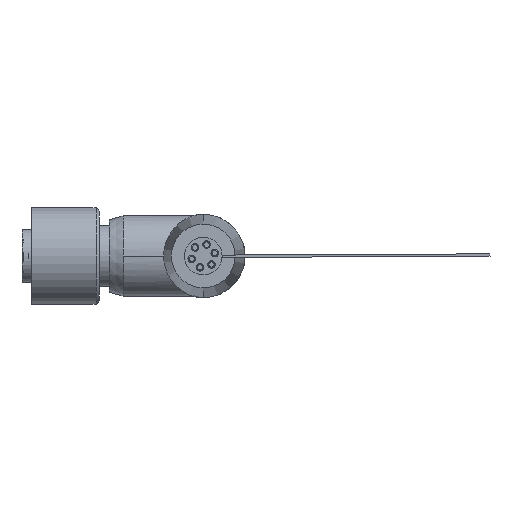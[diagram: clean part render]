
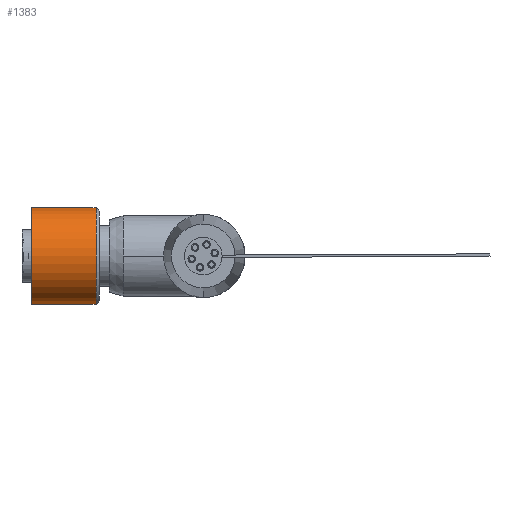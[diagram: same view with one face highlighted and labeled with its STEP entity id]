
A CAD part, front view. The second image highlights one B-rep face of the part: STEP entity #1383.
In plain terms, the highlighted cylindrical face has radius 7.328 mm (diameter 14.656 mm), a partial arc.
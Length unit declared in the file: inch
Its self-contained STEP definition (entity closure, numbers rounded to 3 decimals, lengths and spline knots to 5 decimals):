
#1032 = EDGE_CURVE ( 'NONE', #1139, #1146, #5928, .T. ) ;
#1139 = VERTEX_POINT ( 'NONE', #6256 ) ;
#1140 = VERTEX_POINT ( 'NONE', #6255 ) ;
#1142 = EDGE_CURVE ( 'NONE', #1140, #1143, #6254, .T. ) ;
#1143 = VERTEX_POINT ( 'NONE', #6250 ) ;
#1146 = VERTEX_POINT ( 'NONE', #6244 ) ;
#1296 = EDGE_LOOP ( 'NONE', ( #1297, #1298, #1364, #1365 ) ) ;
#1297 = ORIENTED_EDGE ( 'NONE', *, *, #1142, .F. ) ;
#1298 = ORIENTED_EDGE ( 'NONE', *, *, #1382, .T. ) ;
#1364 = ORIENTED_EDGE ( 'NONE', *, *, #1032, .T. ) ;
#1365 = ORIENTED_EDGE ( 'NONE', *, *, #1366, .F. ) ;
#1366 = EDGE_CURVE ( 'NONE', #1143, #1146, #7683, .T. ) ;
#1382 = EDGE_CURVE ( 'NONE', #1140, #1139, #8406, .T. ) ;
#1383 = ADVANCED_FACE ( 'NONE', ( #8396 ), #8442, .T. ) ;
#5825 = DIRECTION ( 'NONE',  ( -1., 0., 0. ) ) ;
#5826 = VECTOR ( 'NONE', #5825, 39.37008 ) ;
#5827 = CARTESIAN_POINT ( 'NONE',  ( -0.01366, 0., 0.2885 ) ) ;
#5928 = LINE ( 'NONE', #5827, #5826 ) ;
#6244 = CARTESIAN_POINT ( 'NONE',  ( 0.057, 0., 0.2885 ) ) ;
#6250 = CARTESIAN_POINT ( 'NONE',  ( 0.057, 0., -0.2885 ) ) ;
#6251 = DIRECTION ( 'NONE',  ( -1., 0., 0. ) ) ;
#6252 = VECTOR ( 'NONE', #6251, 39.37008 ) ;
#6253 = CARTESIAN_POINT ( 'NONE',  ( -0.01366, 0., -0.2885 ) ) ;
#6254 = LINE ( 'NONE', #6253, #6252 ) ;
#6255 = CARTESIAN_POINT ( 'NONE',  ( 0.442, 0., -0.2885 ) ) ;
#6256 = CARTESIAN_POINT ( 'NONE',  ( 0.442, 0., 0.2885 ) ) ;
#7679 = DIRECTION ( 'NONE',  ( 0., 0., 1. ) ) ;
#7680 = DIRECTION ( 'NONE',  ( -1., 0., 0. ) ) ;
#7681 = CARTESIAN_POINT ( 'NONE',  ( 0.057, 0., 0. ) ) ;
#7682 = AXIS2_PLACEMENT_3D ( 'NONE', #7681, #7680, #7679 ) ;
#7683 = CIRCLE ( 'NONE', #7682, 0.2885 ) ;
#8308 = DIRECTION ( 'NONE',  ( 0., 0., 1. ) ) ;
#8396 = FACE_OUTER_BOUND ( 'NONE', #1296, .T. ) ;
#8397 = DIRECTION ( 'NONE',  ( 0., 0., 1. ) ) ;
#8398 = DIRECTION ( 'NONE',  ( -1., 0., 0. ) ) ;
#8399 = CARTESIAN_POINT ( 'NONE',  ( 0.442, 0., 0. ) ) ;
#8400 = AXIS2_PLACEMENT_3D ( 'NONE', #8399, #8398, #8397 ) ;
#8406 = CIRCLE ( 'NONE', #8400, 0.2885 ) ;
#8440 = DIRECTION ( 'NONE',  ( -1., 0., 0. ) ) ;
#8441 = AXIS2_PLACEMENT_3D ( 'NONE', #8443, #8440, #8308 ) ;
#8442 = CYLINDRICAL_SURFACE ( 'NONE', #8441, 0.2885 ) ;
#8443 = CARTESIAN_POINT ( 'NONE',  ( -0.01366, 0., 0. ) ) ;
